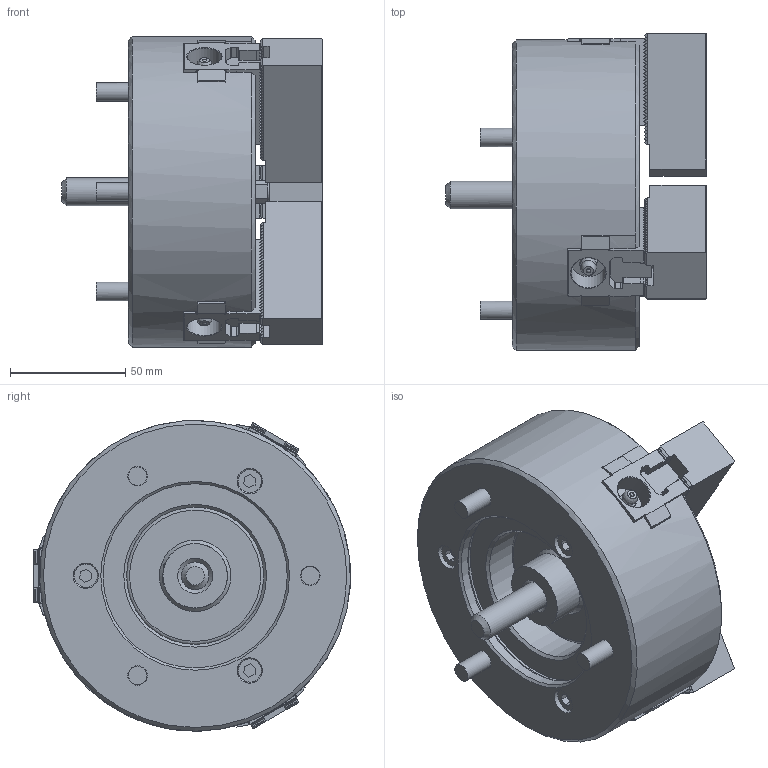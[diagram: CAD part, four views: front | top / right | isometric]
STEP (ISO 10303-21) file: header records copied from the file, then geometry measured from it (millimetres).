
FILE_DESCRIPTION (( 'STEP AP214' ), '1' );
FILE_NAME ('N-05_UC.STEP', '2020-01-23T06:43:32', ( '' ), ( '' ), 'SwSTEP 2.0', 'SolidWorks 2017', '' );
FILE_SCHEMA (( 'AUTOMOTIVE_DESIGN' ));
Length unit declared in the file: millimetre
Products named in the file (18): 61P4008394 T僫僢僩b_g_棉太倌佱UA; P314573 ソフトジョー_W_‡_[_ﾃﾞﾌｫﾙﾄ_ATI≪UA; 61P4008394 T僫僢僩b_g; Part1^61Ｐ2121824 クミタテ~_^_e; 俛傾僫僣僉 M8x22M8x22; N-05_UC; 俛傾僫僣僉 M8x22M8x22_B迸路 M8X22M8X22; P314573 ソフトジョー_W_‡_[; Part1^61Ｐ2121824 クミタテ~_^_e_ﾃﾞﾌｫﾙﾄTI≪UA
Assembly tree (13 placements, depth 2):
  61P4008394 T僫僢僩b_g
  Part1^61Ｐ2121824 クミタテ~_^_e
  俛傾僫僣僉 M8x22M8x22
  俛傾僫僣僉 M8x22M8x22
  俛傾僫僣僉 M8x22M8x22
Bounding box: 113.2 x 137.58 x 134.83 mm (x, y, z)
Volume: 817376.1 mm3; surface area: 126839.4 mm2
Topology: 13 solids, 25 shells, 2066 faces, 5797 edges, 3838 vertices
Faces by surface type: plane 1811, cylinder 185, cone 44, torus 19, sphere 6, bspline 1
Full cylindrical faces by diameter (mm): 1.9 x3, 6 x3, 8 x24, 8.3 x3, 8.4 x1, 8.5 x9, 10 x3, 11 x3, 12 x1, 13 x9, 13.5 x6, 14 x3, 15 x3, 28 x1, 59.6 x1, 80 x1, 81 x1, 135 x1
Entity records: 48484 total; most frequent: CARTESIAN_POINT 9702, ORIENTED_EDGE 8202, DIRECTION 7432, EDGE_CURVE 4101, VECTOR 3548, LINE 3548, VERTEX_POINT 2750, AXIS2_PLACEMENT_3D 1942
